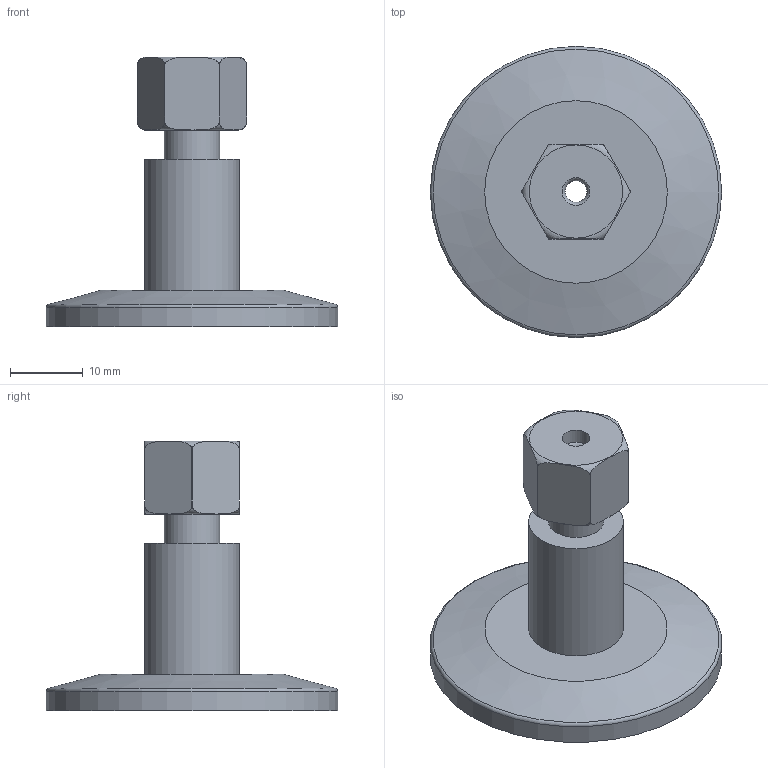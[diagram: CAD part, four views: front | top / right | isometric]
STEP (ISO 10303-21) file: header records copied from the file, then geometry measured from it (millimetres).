
FILE_DESCRIPTION( ( 'Unknown' ), '1' );
FILE_NAME( 'X:/Daten ( aktueller Bestand )/Projekte und Zeichnungen/Solid Edge/STP-Dateien/Sonderbauteile KF/1764.stp', 'Unknown', ( 'Unknown' ), ( 'Unknown' ), 'PSStep 14.0', 'Unknown', ' ' );
FILE_SCHEMA( ( 'AUTOMOTIVE_DESIGN { 1 0 10303 214 1 1 1 1 }' ) );
Length unit declared in the file: millimetre
Products named in the file (4): Assem1; 1762-2; 1764-1; Dichtung
Assembly tree (3 placements, depth 2):
  Assem1
    1762-2
    1764-1
    Dichtung
Bounding box: 40 x 40 x 37 mm (x, y, z)
Volume: 7493.4 mm3; surface area: 5593.6 mm2
Topology: 3 solids, 3 shells, 38 faces, 85 edges, 55 vertices
Faces by surface type: cylinder 14, plane 14, cone 6, torus 4
Full cylindrical faces by diameter (mm): 3.3 x1, 3.8 x1, 7.6 x1, 9.993 x1, 10 x1, 13 x1, 26.2 x1, 40 x1
Entity records: 1642 total; most frequent: CARTESIAN_POINT 522, DIRECTION 168, ORIENTED_EDGE 120, AXIS2_PLACEMENT_3D 78, EDGE_LOOP 62, EDGE_CURVE 60, FACE_OUTER_BOUND 48, VERTEX_POINT 48
